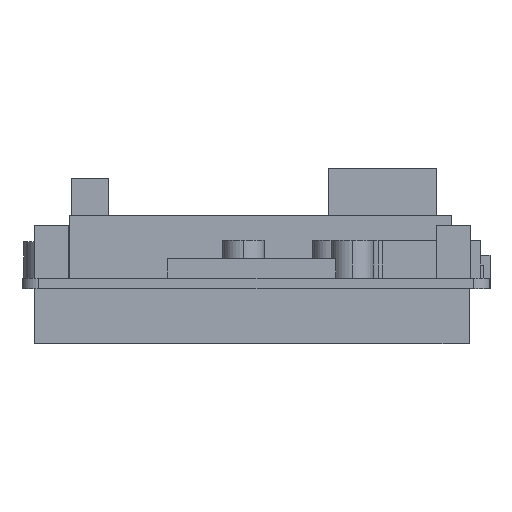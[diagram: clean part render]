
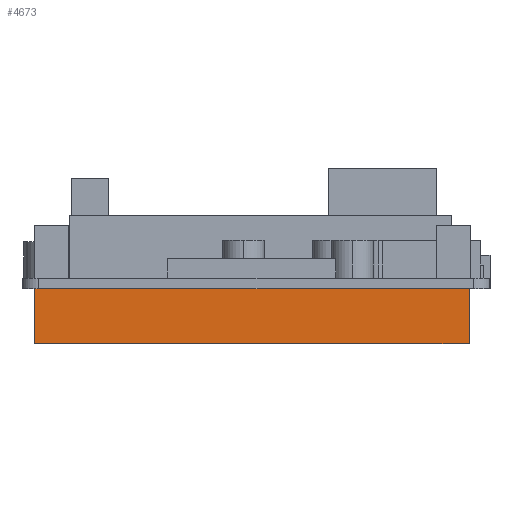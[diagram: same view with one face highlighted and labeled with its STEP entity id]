
A CAD part, left-side view. The second image highlights one B-rep face of the part: STEP entity #4673.
In plain terms, the highlighted planar face has unit normal (-1, 0, 0).
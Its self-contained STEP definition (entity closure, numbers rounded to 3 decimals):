
#637=DIRECTION('',(0.,1.,0.));
#638=VECTOR('',#637,65.4);
#639=CARTESIAN_POINT('',(13.533,5.121,-1.6));
#640=LINE('',#639,#638);
#793=DIRECTION('',(0.,0.,-1.));
#794=VECTOR('',#793,8.28);
#795=CARTESIAN_POINT('',(13.533,70.521,-1.6));
#796=LINE('',#795,#794);
#797=DIRECTION('',(0.,0.,-1.));
#798=VECTOR('',#797,8.28);
#799=CARTESIAN_POINT('',(13.533,5.121,-1.6));
#800=LINE('',#799,#798);
#813=DIRECTION('',(0.,1.,0.));
#814=VECTOR('',#813,65.4);
#815=CARTESIAN_POINT('',(13.533,5.121,-9.88));
#816=LINE('',#815,#814);
#2991=CARTESIAN_POINT('',(13.533,5.121,-9.88));
#2993=VERTEX_POINT('',#2991);
#2994=CARTESIAN_POINT('',(13.533,70.521,-9.88));
#2995=VERTEX_POINT('',#2994);
#2999=CARTESIAN_POINT('',(13.533,5.121,-1.6));
#3001=VERTEX_POINT('',#2999);
#3002=CARTESIAN_POINT('',(13.533,70.521,-1.6));
#3003=VERTEX_POINT('',#3002);
#4661=CARTESIAN_POINT('',(13.533,5.121,-1.6));
#4662=DIRECTION('',(-1.,0.,0.));
#4663=DIRECTION('',(0.,1.,0.));
#4664=AXIS2_PLACEMENT_3D('',#4661,#4662,#4663);
#4665=PLANE('',#4664);
#4666=ORIENTED_EDGE('',*,*,#4248,.F.);
#4667=ORIENTED_EDGE('',*,*,#4628,.T.);
#4669=ORIENTED_EDGE('',*,*,#4668,.T.);
#4670=ORIENTED_EDGE('',*,*,#4653,.F.);
#4671=EDGE_LOOP('',(#4666,#4667,#4669,#4670));
#4672=FACE_OUTER_BOUND('',#4671,.F.);
#4248=EDGE_CURVE('',#3001,#3003,#640,.T.);
#4628=EDGE_CURVE('',#3001,#2993,#800,.T.);
#4653=EDGE_CURVE('',#3003,#2995,#796,.T.);
#4668=EDGE_CURVE('',#2993,#2995,#816,.T.);
#4673=ADVANCED_FACE('',(#4672),#4665,.T.);
